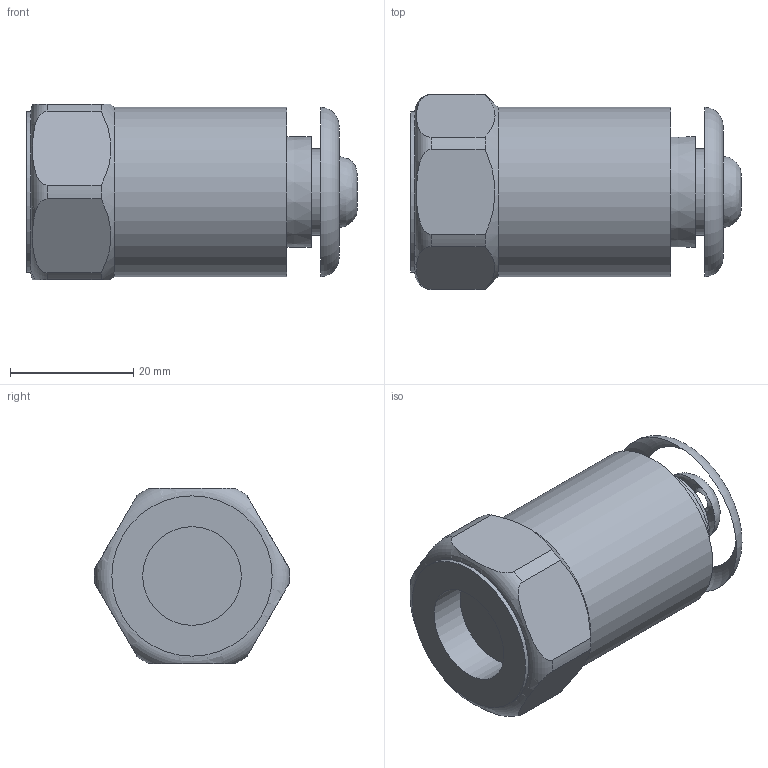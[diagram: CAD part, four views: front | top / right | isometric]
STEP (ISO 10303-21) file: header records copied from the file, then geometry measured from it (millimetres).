
FILE_DESCRIPTION(/* description */ (''),/* implementation_level */ '2;1');
FILE_NAME(/* name */ 'Z:\Engineering\Drawings\3D Library\Assemblies\Website\420 Velocity\HS-420XXX0205.stp',/* time_stamp */ '2023-05-03T13:35:06+01:00',/* author */ ('Ricardo.Peneda'),/* organization */ (''),/* preprocessor_version */ 'ST-DEVELOPER v18.1',/* originating_system */ 'Autodesk Inventor 2021',/* authorisation */ '');
FILE_SCHEMA (('AUTOMOTIVE_DESIGN { 1 0 10303 214 3 1 1 }'));
Length unit declared in the file: inch
Products named in the file (1): HS-420XXX0205_Shrinkwrap_1
Bounding box: 53.67 x 31.69 x 28.5 mm (x, y, z)
Volume: 13400.2 mm3; surface area: 10245.1 mm2
Topology: 2 solids, 2 shells, 38 faces, 108 edges, 74 vertices
Faces by surface type: cone 15, cylinder 10, plane 10, torus 2, bspline 1
Full cylindrical faces by diameter (mm): 16 x1, 25.3 x1, 26 x1, 27.5 x1
Entity records: 1500 total; most frequent: CARTESIAN_POINT 393, DIRECTION 233, ORIENTED_EDGE 216, EDGE_CURVE 108, AXIS2_PLACEMENT_3D 101, VERTEX_POINT 74, CIRCLE 63, EDGE_LOOP 40
